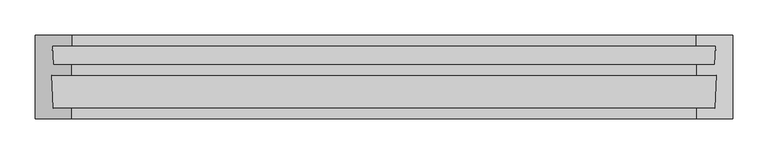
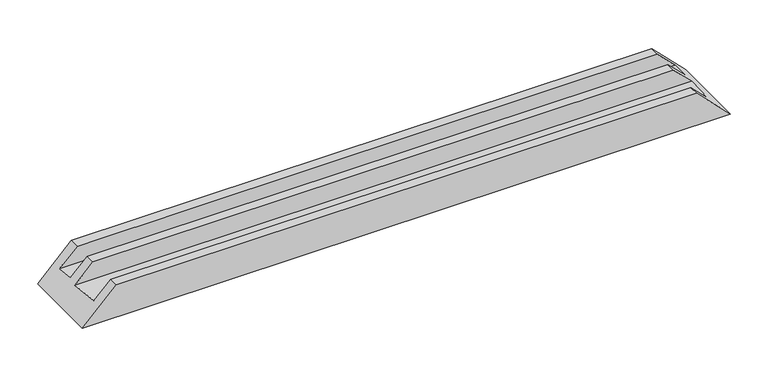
"""IFC4 building model written with IfcOpenShell, lengths in millimetres: proxy geometry, Weiku - Montante - Caixilho triplo 02.2.01.004 : Weiku - Montante - Caixilho triplo 02.2.01.004."""

from ifc_helpers import new_model, si_unit, origin, place, context, project, spatial, faceted_brep, source, transform, mapped, element, save


def generic_models_cbb34ed7(model_context):
    return source(origin(), model_context, "Body", "Brep", [
        faceted_brep([(-471.5, 15.0, 26.0), (-445.5, 15.0, 52.0), (445.5, 15.0, 52.0), (471.5, 15.0, 26.0), (-473.7229744, 62.0, 23.7770256), (473.7229744, 62.0, 23.7770256), (-445.5, 62.0, 52.0), (445.5, 62.0, 52.0), (-445.5, 77.0, 52.0), (445.5, 77.0, 52.0), (-471.5, 77.0, 26.0), (471.5, 77.0, 26.0), (-497.5, 119.0, 0.0), (497.5, 119.0, 0.0), (497.5, 0.0, 0.0), (-497.5, 0.0, 0.0), (445.5, 0.0, 52.0), (-445.5, 0.0, 52.0), (-472.7770279, 104.0, 24.7229721), (-445.5, 104.0, 52.0), (-445.5, 119.0, 52.0), (445.5, 119.0, 52.0), (445.5, 104.0, 52.0), (472.7770279, 104.0, 24.7229721)], [[[0, 1, 2, 3]], [[4, 0, 3, 5]], [[6, 4, 5, 7]], [[8, 6, 7, 9]], [[10, 8, 9, 11]], [[12, 13, 14, 15]], [[15, 14, 16, 17]], [[1, 17, 16, 2]], [[1, 0, 4, 6, 8, 10, 18, 19, 20, 12, 15, 17]], [[3, 2, 16, 14, 13, 21, 22, 23, 11, 9, 7, 5]], [[18, 10, 11, 23]], [[19, 18, 23, 22]], [[20, 19, 22, 21]], [[13, 12, 20, 21]]]),
    ])


if __name__ == "__main__":
    model = new_model("IFC4")
    model_context = context("Model", 3, world=origin())
    ifc_project = project(units=[si_unit("LENGTHUNIT", "METRE", prefix="MILLI")], contexts=[model_context])
    site = spatial("IfcSite", under=ifc_project)
    building = spatial("IfcBuilding", under=site)
    placement = place(None, origin())
    generic_models_shape = generic_models_cbb34ed7(model_context)
    element("IfcBuildingElementProxy", 1, Name="Weiku - Montante - Caixilho triplo 02.2.01.004 : Weiku - Montante - Caixilho triplo 02.2.01.004", ObjectType="Weiku - Montante - Caixilho triplo 02.2.01.004 : Weiku - Montante - Caixilho triplo 02.2.01.004", at=placement, inside=building, context=model_context, shape_type="MappedRepresentation", body=[
        mapped(generic_models_shape, transform((0.0, 0.0, 0.0), x_axis=(1.0, 0.0, 0.0), y_axis=(0.0, 1.0, 0.0), z_axis=(0.0, 0.0, 1.0))),
    ])
    save(model, "model.ifc")
